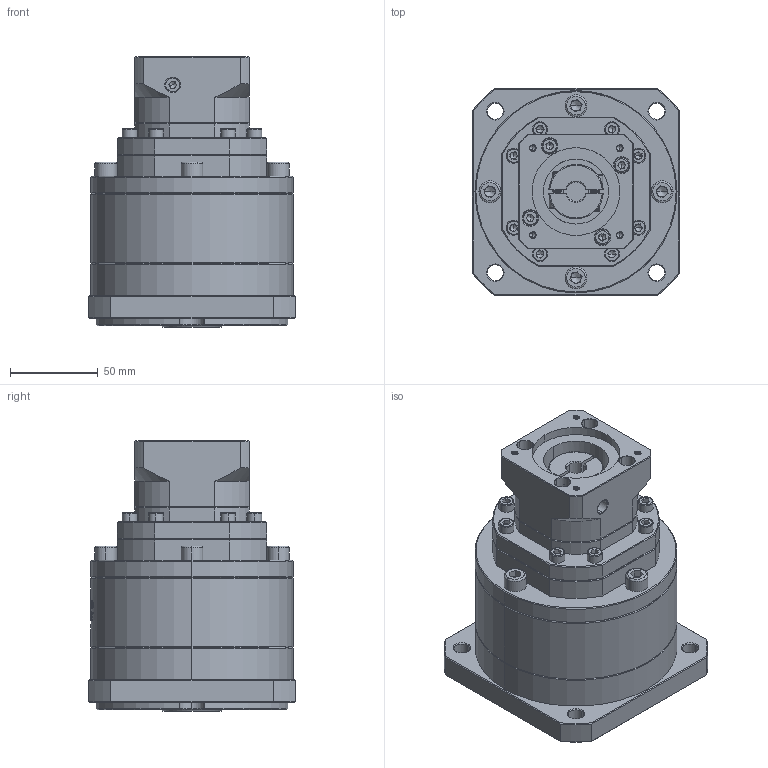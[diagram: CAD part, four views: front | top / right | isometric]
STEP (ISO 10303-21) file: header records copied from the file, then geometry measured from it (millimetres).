
FILE_DESCRIPTION (( 'STEP AP214' ), '1' );
FILE_NAME ('ZF120A-K25-L3-P2-11-50-70-M4.step', '2023-08-27T06:32:08', ( '' ), ( '' ), 'SwSTEP 2.0', 'SolidWorks 2016', '' );
FILE_SCHEMA (( 'AUTOMOTIVE_DESIGN' ));
Length unit declared in the file: millimetre
Products named in the file (1): ZF120A-K25-L3-P2-11-50-70-M4
Bounding box: 118 x 118 x 154 mm (x, y, z)
Volume: 1166461.7 mm3; surface area: 114500.6 mm2
Topology: 7 solids, 7 shells, 2290 faces, 6106 edges, 3926 vertices
Faces by surface type: plane 1172, bspline 426, cylinder 378, cone 292, torus 22
Entity records: 117334 total; most frequent: CARTESIAN_POINT 40240, ORIENTED_EDGE 12108, DIRECTION 8997, EDGE_CURVE 6054, VERTEX_POINT 3926, LINE 3257, VECTOR 3257, AXIS2_PLACEMENT_3D 2870
